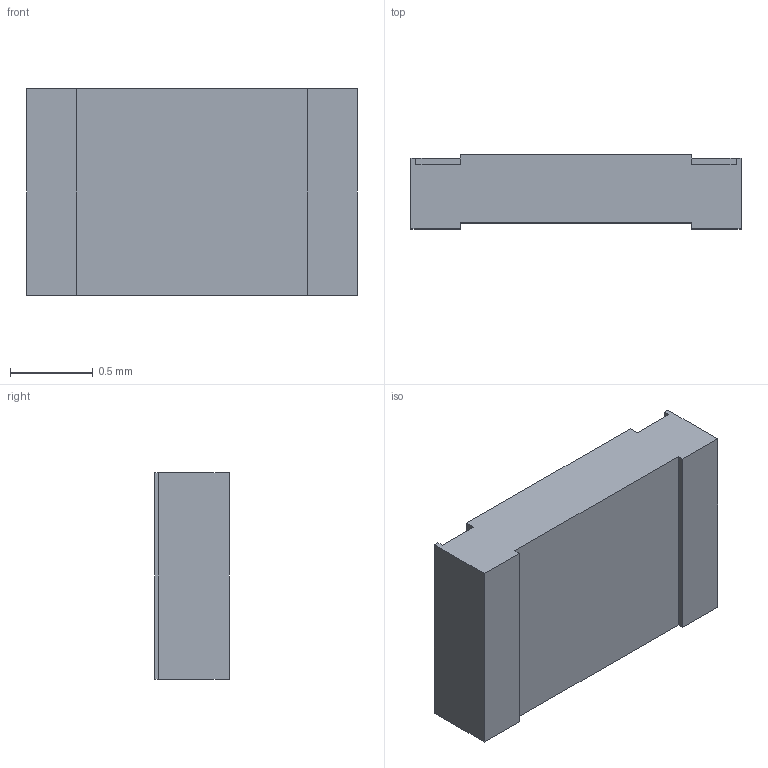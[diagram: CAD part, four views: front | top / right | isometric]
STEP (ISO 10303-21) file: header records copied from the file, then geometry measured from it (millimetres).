
FILE_DESCRIPTION(/* description */ (''),/* implementation_level */ '2;1');
FILE_NAME(/* name */ 'H:\Per\3 Modelle für Chris\D10 CRCW0805-TR e3.stp',/* time_stamp */ '2021-03-16T16:00:01+01:00',/* author */ ('rpetersen'),/* organization */ (''),/* preprocessor_version */ 'ST-DEVELOPER v17',/* originating_system */ 'Autodesk Inventor 2018',/* authorisation */ '');
FILE_SCHEMA (('AUTOMOTIVE_DESIGN { 1 0 10303 214 3 1 1 }'));
Length unit declared in the file: millimetre
Products named in the file (1): 4191
Bounding box: 2 x 0.45 x 1.25 mm (x, y, z)
Volume: 1 mm3; surface area: 7.9 mm2
Topology: 1 solids, 1 shells, 26 faces, 72 edges, 48 vertices
Faces by surface type: plane 26
Entity records: 855 total; most frequent: CARTESIAN_POINT 147, ORIENTED_EDGE 144, DIRECTION 126, LINE 72, VECTOR 72, EDGE_CURVE 72, VERTEX_POINT 48, AXIS2_PLACEMENT_3D 27
